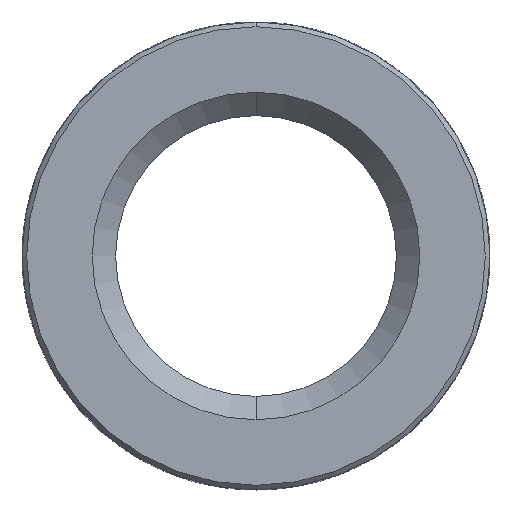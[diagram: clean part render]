
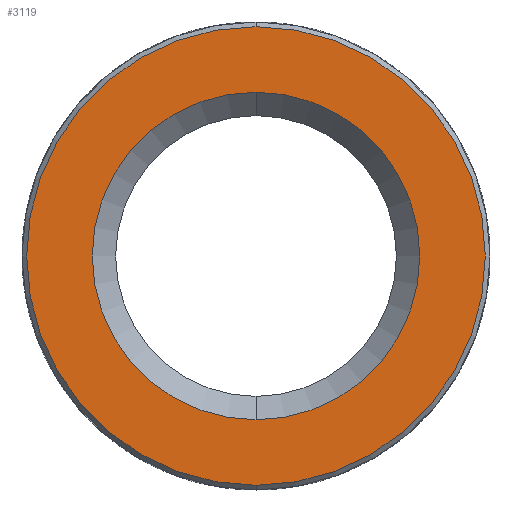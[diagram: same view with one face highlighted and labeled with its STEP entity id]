
A CAD part, front view. The second image highlights one B-rep face of the part: STEP entity #3119.
In plain terms, the highlighted planar face has unit normal (0, -1, 0).
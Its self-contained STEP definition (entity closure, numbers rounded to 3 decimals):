
#30 = DIRECTION ( 'NONE',  ( 0., 0., -1. ) ) ;
#121 = CARTESIAN_POINT ( 'NONE',  ( 0., -6.8, -4.9 ) ) ;
#149 = VERTEX_POINT ( 'NONE', #2917 ) ;
#209 = DIRECTION ( 'NONE',  ( 0., -1., 0. ) ) ;
#393 = CARTESIAN_POINT ( 'NONE',  ( 0., -6.8, 0. ) ) ;
#442 = FACE_BOUND ( 'NONE', #3009, .T. ) ;
#490 = CIRCLE ( 'NONE', #937, 4.9 ) ;
#587 = DIRECTION ( 'NONE',  ( 0., -1., 0. ) ) ;
#762 = CARTESIAN_POINT ( 'NONE',  ( 0., -6.8, 5. ) ) ;
#937 = AXIS2_PLACEMENT_3D ( 'NONE', #2014, #587, #3198 ) ;
#1338 = ORIENTED_EDGE ( 'NONE', *, *, #1836, .T. ) ;
#1385 = VERTEX_POINT ( 'NONE', #1954 ) ;
#1457 = ORIENTED_EDGE ( 'NONE', *, *, #1964, .T. ) ;
#1481 = AXIS2_PLACEMENT_3D ( 'NONE', #1925, #3082, #2207 ) ;
#1487 = ORIENTED_EDGE ( 'NONE', *, *, #1711, .T. ) ;
#1579 = EDGE_LOOP ( 'NONE', ( #2659, #1457 ) ) ;
#1711 = EDGE_CURVE ( 'NONE', #2498, #1385, #3131, .T. ) ;
#1743 = CARTESIAN_POINT ( 'NONE',  ( 0., -6.8, 0. ) ) ;
#1809 = AXIS2_PLACEMENT_3D ( 'NONE', #1743, #2332, #30 ) ;
#1836 = EDGE_CURVE ( 'NONE', #1385, #2498, #2730, .T. ) ;
#1925 = CARTESIAN_POINT ( 'NONE',  ( 0., -6.8, 0. ) ) ;
#1947 = AXIS2_PLACEMENT_3D ( 'NONE', #762, #209, #2511 ) ;
#1954 = CARTESIAN_POINT ( 'NONE',  ( 0., -6.8, -3.5 ) ) ;
#1964 = EDGE_CURVE ( 'NONE', #2247, #149, #2455, .T. ) ;
#2014 = CARTESIAN_POINT ( 'NONE',  ( 0., -6.8, 0. ) ) ;
#2156 = DIRECTION ( 'NONE',  ( 0., 1., 0. ) ) ;
#2200 = CARTESIAN_POINT ( 'NONE',  ( 0., -6.8, 3.5 ) ) ;
#2207 = DIRECTION ( 'NONE',  ( 0., 0., -1. ) ) ;
#2247 = VERTEX_POINT ( 'NONE', #121 ) ;
#2301 = FACE_OUTER_BOUND ( 'NONE', #1579, .T. ) ;
#2332 = DIRECTION ( 'NONE',  ( 0., -1., 0. ) ) ;
#2455 = CIRCLE ( 'NONE', #1809, 4.9 ) ;
#2498 = VERTEX_POINT ( 'NONE', #2200 ) ;
#2511 = DIRECTION ( 'NONE',  ( 0., 0., -1. ) ) ;
#2649 = AXIS2_PLACEMENT_3D ( 'NONE', #393, #2156, #3631 ) ;
#2659 = ORIENTED_EDGE ( 'NONE', *, *, #3562, .T. ) ;
#2730 = CIRCLE ( 'NONE', #1481, 3.5 ) ;
#2917 = CARTESIAN_POINT ( 'NONE',  ( 0., -6.8, 4.9 ) ) ;
#3009 = EDGE_LOOP ( 'NONE', ( #1338, #1487 ) ) ;
#3054 = PLANE ( 'NONE',  #1947 ) ;
#3082 = DIRECTION ( 'NONE',  ( 0., 1., 0. ) ) ;
#3119 = ADVANCED_FACE ( 'NONE', ( #2301, #442 ), #3054, .T. ) ;
#3131 = CIRCLE ( 'NONE', #2649, 3.5 ) ;
#3198 = DIRECTION ( 'NONE',  ( 0., 0., -1. ) ) ;
#3562 = EDGE_CURVE ( 'NONE', #149, #2247, #490, .T. ) ;
#3631 = DIRECTION ( 'NONE',  ( 0., 0., -1. ) ) ;
